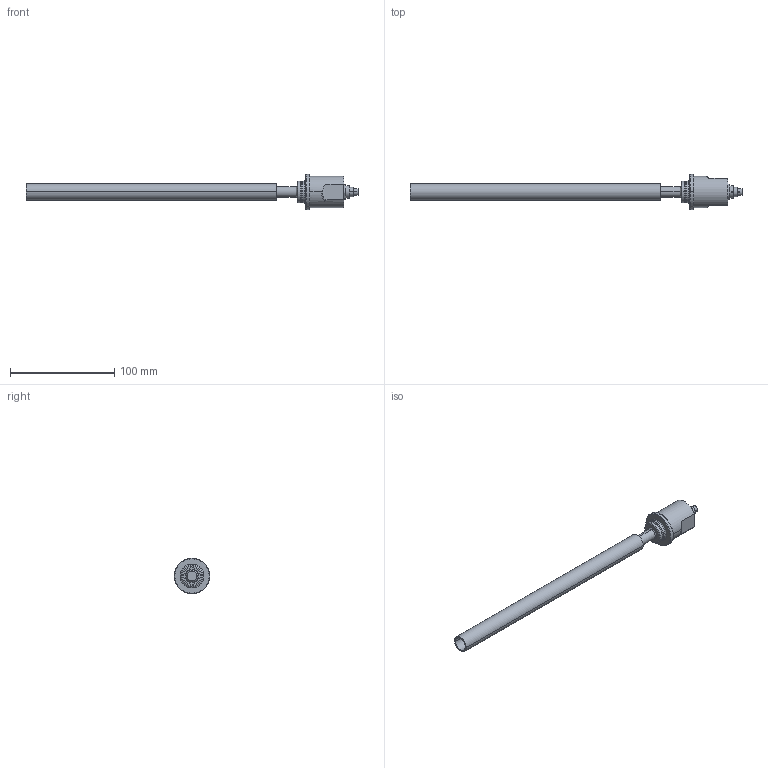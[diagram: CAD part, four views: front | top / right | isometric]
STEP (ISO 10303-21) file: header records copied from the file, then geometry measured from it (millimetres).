
FILE_DESCRIPTION((''),'2;1');
FILE_NAME('EDS-200-S-SA7_MIT_ROHR_ASM','2008-01-02T',('11000065'),(''),'PRO/ENGINEER BY PARAMETRIC TECHNOLOGY CORPORATION, 2007160','PRO/ENGINEER BY PARAMETRIC TECHNOLOGY CORPORATION, 2007160','');
FILE_SCHEMA(('AUTOMOTIVE_DESIGN { 1 2 10303 214 0 1 1 1 }'));
Length unit declared in the file: millimetre
Products named in the file (4): EDS-200-S-SA7; MESSROHR; O-RING-18X1_5; EDS-200-S-SA7_MIT_ROHR_ASM
Assembly tree (3 placements, depth 2):
  EDS-200-S-SA7_MIT_ROHR_ASM
    EDS-200-S-SA7
    MESSROHR
    O-RING-18X1_5
Bounding box: 318.19 x 34 x 34 mm (x, y, z)
Volume: 64623 mm3; surface area: 36900.4 mm2
Topology: 3 solids, 12 shells, 200 faces, 473 edges, 302 vertices
Faces by surface type: cylinder 95, plane 54, cone 20, sphere 14, torus 13, bspline 4
Entity records: 6550 total; most frequent: CARTESIAN_POINT 1343, DIRECTION 1100, ORIENTED_EDGE 914, AXIS2_PLACEMENT_3D 473, EDGE_CURVE 459, VERTEX_POINT 302, CIRCLE 268, EDGE_LOOP 239
